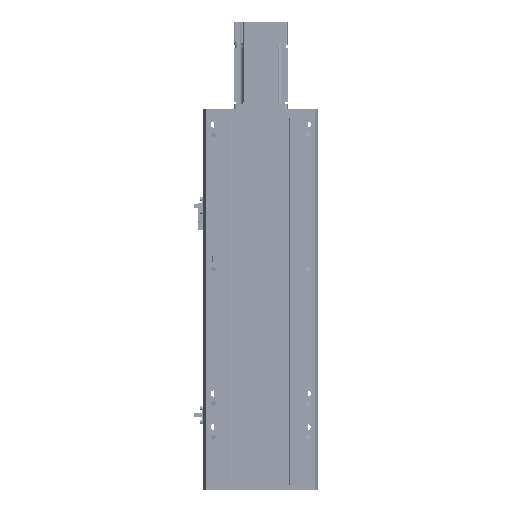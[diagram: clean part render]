
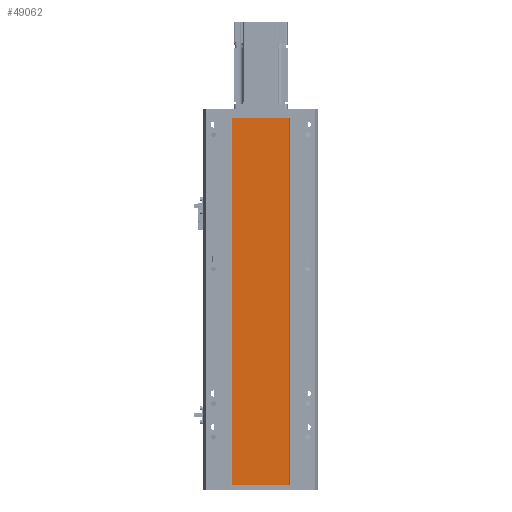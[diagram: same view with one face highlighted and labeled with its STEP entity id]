
A CAD part, front view. The second image highlights one B-rep face of the part: STEP entity #49062.
In plain terms, the highlighted planar face has unit normal (0, -1, 0).
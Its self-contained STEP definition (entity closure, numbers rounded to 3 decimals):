
#3513 = FACE_OUTER_BOUND ( 'NONE', #75169, .T. ) ;
#6910 = PLANE ( 'NONE',  #86105 ) ;
#7238 = DIRECTION ( 'NONE',  ( 0., 0., -1. ) ) ;
#11261 = EDGE_CURVE ( 'NONE', #79681, #52794, #47717, .T. ) ;
#20094 = ORIENTED_EDGE ( 'NONE', *, *, #92446, .F. ) ;
#20640 = CARTESIAN_POINT ( 'NONE',  ( -42., 0., 0. ) ) ;
#22053 = ORIENTED_EDGE ( 'NONE', *, *, #53821, .T. ) ;
#29870 = DIRECTION ( 'NONE',  ( 1., 0., 0. ) ) ;
#31153 = CARTESIAN_POINT ( 'NONE',  ( 42., 0., -545. ) ) ;
#41489 = CARTESIAN_POINT ( 'NONE',  ( -42., 0., 0. ) ) ;
#43715 = DIRECTION ( 'NONE',  ( 1., 0., 0. ) ) ;
#46108 = CARTESIAN_POINT ( 'NONE',  ( -42., 0., -545. ) ) ;
#46704 = CARTESIAN_POINT ( 'NONE',  ( 42., 0., -545. ) ) ;
#47261 = VECTOR ( 'NONE', #43715, 1000. ) ;
#47344 = CARTESIAN_POINT ( 'NONE',  ( 42., 0., 0. ) ) ;
#47717 = LINE ( 'NONE', #46704, #81977 ) ;
#49062 = ADVANCED_FACE ( 'NONE', ( #3513 ), #6910, .T. ) ;
#50171 = ORIENTED_EDGE ( 'NONE', *, *, #11261, .T. ) ;
#52062 = LINE ( 'NONE', #89536, #86294 ) ;
#52794 = VERTEX_POINT ( 'NONE', #47344 ) ;
#53821 = EDGE_CURVE ( 'NONE', #65011, #79681, #68099, .T. ) ;
#53973 = DIRECTION ( 'NONE',  ( 0., -1., 0. ) ) ;
#59652 = LINE ( 'NONE', #20640, #98668 ) ;
#61585 = VERTEX_POINT ( 'NONE', #41489 ) ;
#65011 = VERTEX_POINT ( 'NONE', #81494 ) ;
#66029 = DIRECTION ( 'NONE',  ( 0., 0., 1. ) ) ;
#68099 = LINE ( 'NONE', #90534, #47261 ) ;
#70335 = DIRECTION ( 'NONE',  ( 0., 0., 1. ) ) ;
#75169 = EDGE_LOOP ( 'NONE', ( #85549, #20094, #22053, #50171 ) ) ;
#79681 = VERTEX_POINT ( 'NONE', #31153 ) ;
#81494 = CARTESIAN_POINT ( 'NONE',  ( -42., 0., -545. ) ) ;
#81977 = VECTOR ( 'NONE', #70335, 1000. ) ;
#85549 = ORIENTED_EDGE ( 'NONE', *, *, #96299, .F. ) ;
#86105 = AXIS2_PLACEMENT_3D ( 'NONE', #46108, #53973, #7238 ) ;
#86294 = VECTOR ( 'NONE', #66029, 1000. ) ;
#89536 = CARTESIAN_POINT ( 'NONE',  ( -42., 0., -545. ) ) ;
#90534 = CARTESIAN_POINT ( 'NONE',  ( -42., 0., -545. ) ) ;
#92446 = EDGE_CURVE ( 'NONE', #65011, #61585, #52062, .T. ) ;
#96299 = EDGE_CURVE ( 'NONE', #61585, #52794, #59652, .T. ) ;
#98668 = VECTOR ( 'NONE', #29870, 1000. ) ;
